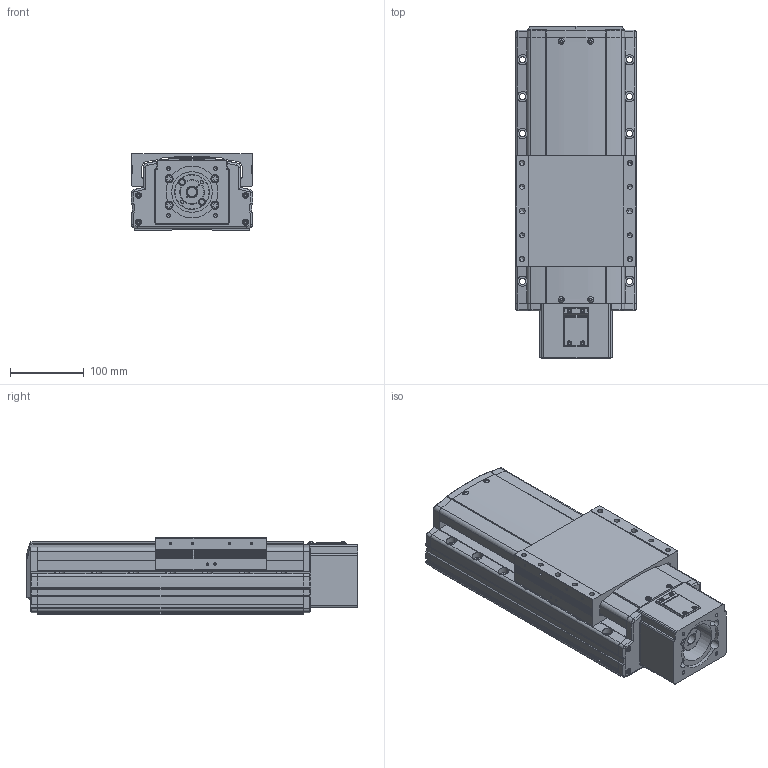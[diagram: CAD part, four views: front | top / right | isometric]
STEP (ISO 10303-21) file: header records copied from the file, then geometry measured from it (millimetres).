
FILE_DESCRIPTION(('STEP AP214'),'1');
FILE_NAME('Z:/Web/3D/PSA165/STP/PSA165-100 (3D)/PSA165ㅁㅁ-100S.stp','2014-06-23T06:17:51',(' '),(' '),'Spatial InterOp 3D',' ',' ');
FILE_SCHEMA(('automotive_design'));
Length unit declared in the file: millimetre
Products named in the file (67): 스크루 : Round - M4.0 x 12.0; RRCV-PA160; BASE; 스크루 : Round - M4.0 x 10.0; RN15; Screw 20; SLIDE; FRCV; 스크루 : Socket - M6.0 x 25.0; MTHZ-SAN150-80A; SSFX-SAN65; CPLCV-SAN65; 스크루 : Round - M3.0 x 6.0; SDWA47C(2); SDWA47C(3-1); SDWA47C(3); SDWA47C(1); SDWA47C(4); SDWA47C(5)
Bounding box: 165 x 449.8 x 104 mm (x, y, z)
Volume: 5933753.6 mm3; surface area: 564501.9 mm2
Topology: 67 solids, 67 shells, 2872 faces, 7639 edges, 4923 vertices
Faces by surface type: plane 1364, cylinder 1066, cone 333, sphere 50, bspline 35, torus 24
Entity records: 117907 total; most frequent: CARTESIAN_POINT 20611, DIRECTION 15931, ORIENTED_EDGE 15022, EDGE_CURVE 7511, AXIS2_PLACEMENT_3D 5733, VERTEX_POINT 4923, LINE 4465, VECTOR 4465
